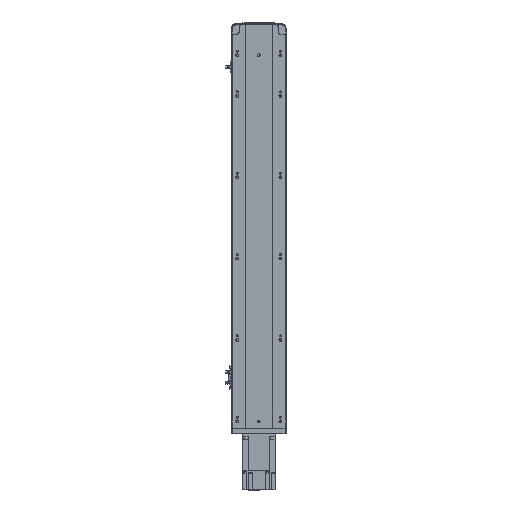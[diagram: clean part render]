
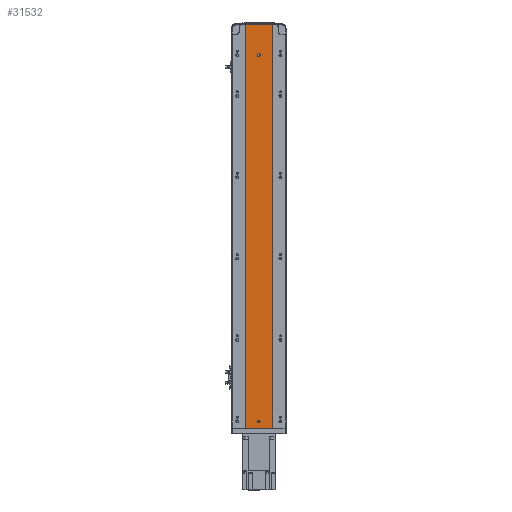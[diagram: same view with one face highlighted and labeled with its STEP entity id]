
A CAD part, top view. The second image highlights one B-rep face of the part: STEP entity #31532.
In plain terms, the highlighted planar face has unit normal (0, 0, 1).
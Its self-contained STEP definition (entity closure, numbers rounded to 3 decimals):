
#215 = CARTESIAN_POINT ( 'NONE',  ( 0., 915.5, 35.45 ) ) ;
#587 = CARTESIAN_POINT ( 'NONE',  ( -3., 16.5, 35.45 ) ) ;
#614 = CARTESIAN_POINT ( 'NONE',  ( 3., 917.5, 35.45 ) ) ;
#1406 = VERTEX_POINT ( 'NONE', #35513 ) ;
#1937 = ORIENTED_EDGE ( 'NONE', *, *, #41117, .F. ) ;
#2898 = CIRCLE ( 'NONE', #12890, 3. ) ;
#3522 = DIRECTION ( 'NONE',  ( 0., -1., 0. ) ) ;
#5734 = LINE ( 'NONE', #46124, #47990 ) ;
#6404 = DIRECTION ( 'NONE',  ( 0., 0., -1. ) ) ;
#6467 = VECTOR ( 'NONE', #43236, 1000. ) ;
#6791 = ORIENTED_EDGE ( 'NONE', *, *, #18280, .T. ) ;
#7196 = CARTESIAN_POINT ( 'NONE',  ( -32.5, 992., 35.45 ) ) ;
#8212 = ORIENTED_EDGE ( 'NONE', *, *, #28794, .F. ) ;
#8597 = EDGE_LOOP ( 'NONE', ( #20977, #52420, #1937, #39067 ) ) ;
#8984 = CARTESIAN_POINT ( 'NONE',  ( -32.5, 992., 35.45 ) ) ;
#9022 = CARTESIAN_POINT ( 'NONE',  ( 32.5, 0., 35.45 ) ) ;
#9422 = VERTEX_POINT ( 'NONE', #24190 ) ;
#11050 = LINE ( 'NONE', #7196, #42359 ) ;
#12890 = AXIS2_PLACEMENT_3D ( 'NONE', #47324, #30690, #22662 ) ;
#14121 = EDGE_CURVE ( 'NONE', #22891, #27462, #30279, .T. ) ;
#14134 = VERTEX_POINT ( 'NONE', #587 ) ;
#14935 = EDGE_CURVE ( 'NONE', #27910, #9422, #11050, .T. ) ;
#15075 = VERTEX_POINT ( 'NONE', #16185 ) ;
#16109 = ORIENTED_EDGE ( 'NONE', *, *, #25606, .F. ) ;
#16185 = CARTESIAN_POINT ( 'NONE',  ( 32.5, 992., 35.45 ) ) ;
#18280 = EDGE_CURVE ( 'NONE', #9422, #19260, #5734, .T. ) ;
#18595 = PLANE ( 'NONE',  #50084 ) ;
#19260 = VERTEX_POINT ( 'NONE', #9022 ) ;
#19905 = LINE ( 'NONE', #24086, #24404 ) ;
#20929 = LINE ( 'NONE', #52584, #40775 ) ;
#20941 = CARTESIAN_POINT ( 'NONE',  ( 3., 915.5, 35.45 ) ) ;
#20977 = ORIENTED_EDGE ( 'NONE', *, *, #33712, .F. ) ;
#21205 = EDGE_CURVE ( 'NONE', #30131, #46519, #50357, .T. ) ;
#21818 = DIRECTION ( 'NONE',  ( 1., 0., 0. ) ) ;
#22662 = DIRECTION ( 'NONE',  ( 1., 0., 0. ) ) ;
#22891 = VERTEX_POINT ( 'NONE', #52622 ) ;
#24086 = CARTESIAN_POINT ( 'NONE',  ( -3., 915.5, 35.45 ) ) ;
#24190 = CARTESIAN_POINT ( 'NONE',  ( -32.5, 0., 35.45 ) ) ;
#24404 = VECTOR ( 'NONE', #3522, 1000. ) ;
#24440 = LINE ( 'NONE', #25421, #6467 ) ;
#25421 = CARTESIAN_POINT ( 'NONE',  ( 3., 915.5, 35.45 ) ) ;
#25606 = EDGE_CURVE ( 'NONE', #27910, #15075, #43913, .T. ) ;
#27462 = VERTEX_POINT ( 'NONE', #20941 ) ;
#27910 = VERTEX_POINT ( 'NONE', #46106 ) ;
#28083 = EDGE_CURVE ( 'NONE', #14134, #1406, #29233, .T. ) ;
#28794 = EDGE_CURVE ( 'NONE', #15075, #19260, #20929, .T. ) ;
#28832 = DIRECTION ( 'NONE',  ( 0., 0., 1. ) ) ;
#29197 = ORIENTED_EDGE ( 'NONE', *, *, #49417, .F. ) ;
#29233 = CIRCLE ( 'NONE', #51278, 3. ) ;
#30131 = VERTEX_POINT ( 'NONE', #614 ) ;
#30279 = CIRCLE ( 'NONE', #51048, 3. ) ;
#30690 = DIRECTION ( 'NONE',  ( 0., 0., 1. ) ) ;
#31239 = DIRECTION ( 'NONE',  ( 0., 0., 1. ) ) ;
#31532 = ADVANCED_FACE ( 'NONE', ( #45067, #49571, #34790 ), #18595, .F. ) ;
#31586 = CARTESIAN_POINT ( 'NONE',  ( 0., 917.5, 35.45 ) ) ;
#31902 = EDGE_LOOP ( 'NONE', ( #29197, #46223 ) ) ;
#32324 = DIRECTION ( 'NONE',  ( 0., 0., 1. ) ) ;
#32944 = EDGE_LOOP ( 'NONE', ( #6791, #8212, #16109, #43963 ) ) ;
#32951 = DIRECTION ( 'NONE',  ( 1., 0., 0. ) ) ;
#33712 = EDGE_CURVE ( 'NONE', #27462, #30131, #24440, .T. ) ;
#34090 = CARTESIAN_POINT ( 'NONE',  ( -3., 917.5, 35.45 ) ) ;
#34790 = FACE_OUTER_BOUND ( 'NONE', #32944, .T. ) ;
#35252 = AXIS2_PLACEMENT_3D ( 'NONE', #31586, #31239, #35676 ) ;
#35513 = CARTESIAN_POINT ( 'NONE',  ( 3., 16.5, 35.45 ) ) ;
#35676 = DIRECTION ( 'NONE',  ( 1., 0., 0. ) ) ;
#35801 = DIRECTION ( 'NONE',  ( 0., -1., 0. ) ) ;
#35917 = DIRECTION ( 'NONE',  ( 0., -1., 0. ) ) ;
#38054 = VECTOR ( 'NONE', #41677, 1000. ) ;
#39067 = ORIENTED_EDGE ( 'NONE', *, *, #21205, .F. ) ;
#40775 = VECTOR ( 'NONE', #35917, 1000. ) ;
#41117 = EDGE_CURVE ( 'NONE', #46519, #22891, #19905, .T. ) ;
#41677 = DIRECTION ( 'NONE',  ( 1., 0., 0. ) ) ;
#42359 = VECTOR ( 'NONE', #35801, 1000. ) ;
#43236 = DIRECTION ( 'NONE',  ( 0., 1., 0. ) ) ;
#43913 = LINE ( 'NONE', #8984, #38054 ) ;
#43963 = ORIENTED_EDGE ( 'NONE', *, *, #14935, .T. ) ;
#44640 = CARTESIAN_POINT ( 'NONE',  ( 0., 16.5, 35.45 ) ) ;
#45067 = FACE_BOUND ( 'NONE', #31902, .T. ) ;
#46106 = CARTESIAN_POINT ( 'NONE',  ( -32.5, 992., 35.45 ) ) ;
#46124 = CARTESIAN_POINT ( 'NONE',  ( -32.5, 0., 35.45 ) ) ;
#46223 = ORIENTED_EDGE ( 'NONE', *, *, #28083, .F. ) ;
#46519 = VERTEX_POINT ( 'NONE', #34090 ) ;
#47324 = CARTESIAN_POINT ( 'NONE',  ( 0., 16.5, 35.45 ) ) ;
#47990 = VECTOR ( 'NONE', #21818, 1000. ) ;
#48969 = DIRECTION ( 'NONE',  ( 1., 0., 0. ) ) ;
#49417 = EDGE_CURVE ( 'NONE', #1406, #14134, #2898, .T. ) ;
#49571 = FACE_BOUND ( 'NONE', #8597, .T. ) ;
#50084 = AXIS2_PLACEMENT_3D ( 'NONE', #51164, #6404, #50825 ) ;
#50357 = CIRCLE ( 'NONE', #35252, 3. ) ;
#50825 = DIRECTION ( 'NONE',  ( -1., 0., 0. ) ) ;
#51048 = AXIS2_PLACEMENT_3D ( 'NONE', #215, #28832, #32951 ) ;
#51164 = CARTESIAN_POINT ( 'NONE',  ( -32.5, 992., 35.45 ) ) ;
#51278 = AXIS2_PLACEMENT_3D ( 'NONE', #44640, #32324, #48969 ) ;
#52420 = ORIENTED_EDGE ( 'NONE', *, *, #14121, .F. ) ;
#52584 = CARTESIAN_POINT ( 'NONE',  ( 32.5, 992., 35.45 ) ) ;
#52622 = CARTESIAN_POINT ( 'NONE',  ( -3., 915.5, 35.45 ) ) ;
